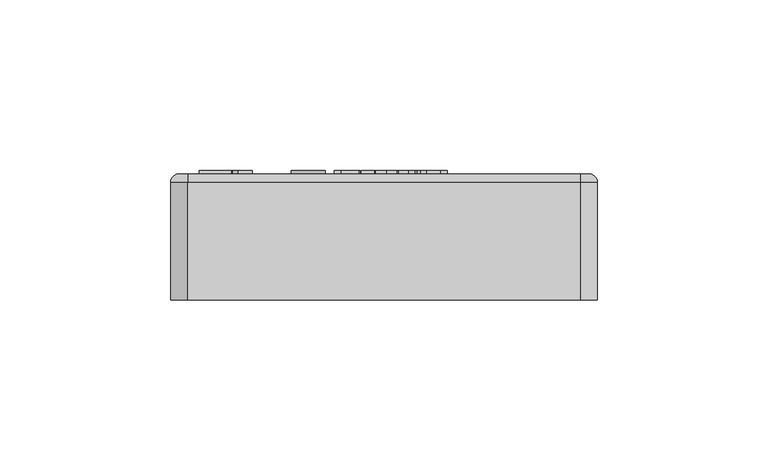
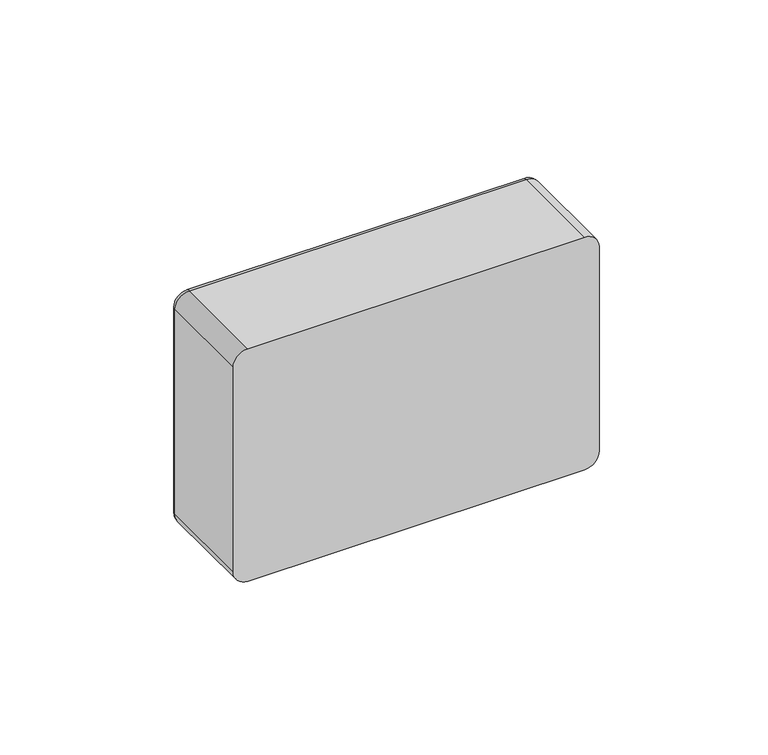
"""IFC4 building model written with IfcOpenShell, lengths in millimetres: proxy geometry, RBZ_МодульРелейный_Рубеж_РМ-1(1С;4) _прот.R3 : РМ-4 прот. R3."""

from ifc_helpers import new_model, si_unit, point, frame, frame_2d, origin, place, context, project, spatial, polyline, circle_curve, ellipse_curve, trimmed, segment, composite_curve, outline, extrude, source, transform, mapped, element, save
from ifc_brep_helpers import plane_surface, cylinder_surface, revolved_surface, advanced_brep


def electrical_equipment_0a952487(model_context):
    return source(origin(), model_context, "Body", "SolidModel", [
        extrude(outline(composite_curve([segment(trimmed(circle_curve(frame_2d((53.3588162, -22.1973865)), 5.0), [point((53.3588162, -17.1973865))], [point((53.3588162, -27.1973865))], False, "CARTESIAN"), True, "CONTINUOUS"), segment(trimmed(circle_curve(frame_2d((53.3588162, -22.1973865)), 5.0), [point((53.3588162, -27.1973865))], [point((53.3588162, -17.1973865))], False, "CARTESIAN"), True, "CONTINUOUS")], self_intersect=False)), frame((0.0, 37.0, 0.0), z_axis=(0.0, 1.0, 0.0), x_axis=(0.0, 0.0, 1.0)), (0.0, 0.0, 1.0), 1.0),
        extrude(outline(polyline([(16.8535228, -44.5809835), (16.8535228, -54.095442), (12.2150397, -52.2213731), (12.2150397, -50.4073043), (7.3266777, -53.9589072), (7.3266777, -51.3726746), (9.499446, -49.9616623), (9.499446, -38.6689562), (19.7294115, -42.8021305), (17.6170136, -44.3368775), (11.5052734, -41.8675742), (11.5052734, -48.3058879), (13.9791295, -46.699347), (13.9791295, -50.735573), (14.8288565, -51.078885), (14.8288565, -46.0654671), (12.2150397, -45.0094166), (12.2150397, -42.7069147), (16.8535228, -44.5809835)])), frame((0.0, 37.0, 0.0), z_axis=(0.0, 1.0, 0.0), x_axis=(0.0, 0.0, 1.0)), (0.0, 0.0, 1.0), 1.0),
        extrude(outline(polyline([(8.679106, 16.6169585), (8.679106, 18.5957354), (18.8817, 16.5157423), (18.8817, 12.3557561), (18.6210682, 10.6021852), (17.7582, 9.5799015), (16.3183995, 9.2028711), (14.8153387, 9.5065197), (13.6450263, 10.2529893), (12.9795297, 11.2044217), (12.6366598, 12.5759013), (12.5658085, 14.4585228), (12.5658085, 15.8224113), (8.679106, 16.6169585)]), holes=[polyline([(14.1852678, 15.4934586), (14.4028827, 12.4266074), (15.1012745, 11.4890923), (16.1564535, 11.1462224), (17.2622406, 13.2439283), (17.2622406, 14.8659181), (14.1852678, 15.4934586)])]), frame((0.0, 37.0, 0.0), z_axis=(0.0, 1.0, 0.0), x_axis=(0.0, 0.0, 1.0)), (0.0, 0.0, 1.0), 1.0),
        extrude(outline(polyline([(8.679106, 3.3728174), (8.679106, 5.3161686), (17.1053555, 5.7210335), (8.679106, 7.2595199), (8.679106, 9.2307056), (18.8817, 7.1456516), (18.8817, 4.1698951), (11.5738896, 3.8586552), (18.8817, 0.6627534), (18.8817, -2.4648275), (8.679106, -0.5493107), (8.679106, 1.4294662), (17.1002947, -0.2709662), (8.679106, 3.3728174)])), frame((0.0, 37.0, 0.0), z_axis=(0.0, 1.0, 0.0), x_axis=(0.0, 0.0, 1.0)), (0.0, 0.0, 1.0), 1.0),
        extrude(outline(polyline([(13.3755381, -2.7811282), (13.3755381, -6.6678307), (11.4321869, -6.3439388), (11.4321869, -2.4572363), (13.3755381, -2.7811282)])), frame((0.0, 37.0, 0.0), z_axis=(0.0, 1.0, 0.0), x_axis=(0.0, 0.0, 1.0)), (0.0, 0.0, 1.0), 1.0),
        extrude(outline(polyline([(10.7844032, -10.984702), (10.7844032, -6.9917225), (12.3785585, -7.3282664), (18.719754, -12.7028472), (18.719754, -14.5778775), (12.4038625, -13.2899012), (12.4038625, -14.4412356), (10.7844032, -14.1021613), (10.7844032, -12.9609485), (8.679106, -12.5307796), (8.679106, -10.5545331), (10.7844032, -10.984702)]), holes=[polyline([(12.4038625, -11.3136547), (15.6427812, -11.9740905), (12.4038625, -9.2589656), (12.4038625, -11.3136547)])]), frame((0.0, 37.0, 0.0), z_axis=(0.0, 1.0, 0.0), x_axis=(0.0, 0.0, 1.0)), (0.0, 0.0, 1.0), 1.0),
        extrude(outline(composite_curve([segment(trimmed(circle_curve(frame_2d((74.0, -52.5)), 5.0), [point((79.0, -52.5))], [point((74.0, -57.5))], False, "CARTESIAN"), True, "CONTINUOUS"), segment(polyline([(74.0, -57.5), (10.0, -57.5)]), True, "CONTINUOUS"), segment(trimmed(circle_curve(frame_2d((10.0, -52.5)), 5.0), [point((10.0, -57.5))], [point((5.0, -52.5))], False, "CARTESIAN"), True, "CONTINUOUS"), segment(polyline([(5.0, -52.5), (5.0, 22.5)]), True, "CONTINUOUS"), segment(trimmed(circle_curve(frame_2d((10.0, 22.5)), 5.0), [point((5.0, 22.5))], [point((10.0, 27.5))], False, "CARTESIAN"), True, "CONTINUOUS"), segment(polyline([(10.0, 27.5), (15.0, 27.5)]), True, "CONTINUOUS"), segment(trimmed(circle_curve(frame_2d((25.0, 27.5)), 10.0), [point((15.0, 27.5))], [point((35.0, 27.5))], False, "CARTESIAN"), True, "CONTINUOUS"), segment(polyline([(35.0, 27.5), (74.0, 27.5)]), True, "CONTINUOUS"), segment(trimmed(circle_curve(frame_2d((74.0, 22.5)), 5.0), [point((74.0, 27.5))], [point((79.0, 22.5))], False, "CARTESIAN"), True, "CONTINUOUS"), segment(polyline([(79.0, 22.5), (79.0, -52.5)]), True, "CONTINUOUS")], self_intersect=False)), frame((0.0, 34.8836616, 0.0), z_axis=(0.0, 1.0, 0.0), x_axis=(0.0, 0.0, 1.0)), (0.0, 0.0, 1.0), 2.1163384),
        advanced_brep(
        [(-57.5, 37.0, 2.5), (-60.0, 37.0, 5.0), (-60.0, 37.0, 79.0), (-57.5, 37.0, 81.5), (57.5, 37.0, 81.5), (60.0, 37.0, 79.0), (60.0, 37.0, 5.0), (57.5, 37.0, 2.5), (27.5, 37.0, 74.0), (22.5, 37.0, 79.0), (-52.5, 37.0, 79.0), (-57.5, 37.0, 74.0), (-57.5, 37.0, 10.0), (-52.5, 37.0, 5.0), (22.5, 37.0, 5.0), (27.5, 37.0, 10.0), (27.5, 37.0, 15.0), (27.5, 37.0, 35.0), (-57.5, 0.0, 84.0), (-62.5, 0.0, 79.0), (-62.5, 0.0, 5.0), (-57.5, 0.0, 0.0), (57.5, 0.0, 0.0), (62.5, 0.0, 5.0), (62.5, 0.0, 79.0), (57.5, 0.0, 84.0), (57.5, 34.5, 84.0), (-57.5, 34.5, 84.0), (62.5, 34.5000019, 79.0), (62.5, 34.5, 5.0), (57.5, 34.5000018, 0.0), (-57.5, 34.5000019, 0.0), (-62.5, 34.5000019, 5.0), (-62.5, 34.5, 79.0), (22.5, 31.4049918, 79.0), (27.5, 31.4049918, 74.0), (27.5, 31.4049918, 35.0), (27.5, 31.4049918, 15.0), (27.5, 31.4049918, 10.0), (22.5, 31.4049918, 5.0), (-52.5, 31.4049918, 5.0), (-57.5, 31.4049918, 10.0), (-57.5, 31.4049918, 74.0), (-52.5, 31.4049918, 79.0)],
        [
            (0, 1, circle_curve(frame((-57.5, 37.0, 5.0), z_axis=(0.0, 1.0, 0.0), x_axis=(0.0, 0.0, -1.0)), 2.5)),
            (1, 2),
            (2, 3, circle_curve(frame((-57.5, 37.0, 79.0), z_axis=(0.0, 1.0, 0.0), x_axis=(-1.0, 0.0, 0.0)), 2.5)),
            (3, 4),
            (4, 5, circle_curve(frame((57.5, 37.0, 79.0), z_axis=(0.0, 1.0, 0.0), x_axis=(0.0, 0.0, 1.0)), 2.5)),
            (5, 6),
            (6, 7, circle_curve(frame((57.5, 37.0, 5.0), z_axis=(0.0, 1.0, 0.0), x_axis=(1.0, 0.0, 0.0)), 2.5)),
            (7, 0),
            (8, 9, circle_curve(frame((22.5, 37.0, 74.0), z_axis=(0.0, -1.0, 0.0), x_axis=(-1.0, 0.0, 0.0)), 5.0)),
            (9, 10),
            (10, 11, circle_curve(frame((-52.5, 37.0, 74.0), z_axis=(0.0, -1.0, 0.0), x_axis=(-1.0, 0.0, 0.0)), 5.0)),
            (11, 12),
            (12, 13, circle_curve(frame((-52.5, 37.0, 10.0), z_axis=(0.0, -1.0, 0.0), x_axis=(-1.0, 0.0, 0.0)), 5.0)),
            (13, 14),
            (14, 15, circle_curve(frame((22.5, 37.0, 10.0), z_axis=(0.0, -1.0, 0.0), x_axis=(-1.0, 0.0, 0.0)), 5.0)),
            (15, 16),
            (16, 17, circle_curve(frame((27.5, 37.0, 25.0), z_axis=(0.0, -1.0, 0.0), x_axis=(-1.0, 0.0, 0.0)), 10.0)),
            (17, 8),
            (18, 19, circle_curve(frame((-57.5, 0.0, 79.0), z_axis=(0.0, -1.0, 0.0), x_axis=(-1.0, 0.0, 0.0)), 5.0)),
            (19, 20),
            (20, 21, circle_curve(frame((-57.5, 0.0, 5.0), z_axis=(0.0, -1.0, 0.0), x_axis=(-1.0, 0.0, 0.0)), 5.0)),
            (21, 22),
            (22, 23, circle_curve(frame((57.5, 0.0, 5.0), z_axis=(0.0, -1.0, 0.0), x_axis=(-1.0, 0.0, 0.0)), 5.0)),
            (23, 24),
            (24, 25, circle_curve(frame((57.5, 0.0, 79.0), z_axis=(0.0, -1.0, 0.0), x_axis=(-1.0, 0.0, 0.0)), 5.0)),
            (25, 18),
            (25, 26),
            (26, 27),
            (27, 18),
            (24, 28),
            (28, 26, circle_curve(frame((57.5, 34.5, 79.0), z_axis=(0.0, -1.0, 0.0), x_axis=(-1.0, 0.0, 0.0)), 5.0)),
            (23, 29),
            (29, 28),
            (22, 30),
            (30, 29, circle_curve(frame((57.5, 34.5, 5.0), z_axis=(0.0, -1.0, 0.0), x_axis=(-1.0, 0.0, 0.0)), 5.0)),
            (21, 31),
            (31, 30),
            (20, 32),
            (32, 31, circle_curve(frame((-57.5, 34.5, 5.0), z_axis=(0.0, -1.0, 0.0), x_axis=(-1.0, 0.0, 0.0)), 5.0)),
            (19, 33),
            (33, 32),
            (27, 33, circle_curve(frame((-57.5, 34.5, 79.0), z_axis=(0.0, -1.0, 0.0), x_axis=(-1.0, 0.0, 0.0)), 5.0)),
            (34, 35, circle_curve(frame((22.5, 31.4049918, 74.0), z_axis=(0.0, 1.0, 0.0), x_axis=(-1.0, 0.0, 0.0)), 5.0)),
            (35, 36),
            (36, 37, circle_curve(frame((27.5, 31.4049918, 25.0), z_axis=(0.0, 1.0, 0.0), x_axis=(-1.0, 0.0, 0.0)), 10.0)),
            (37, 38),
            (38, 39, circle_curve(frame((22.5, 31.4049918, 10.0), z_axis=(0.0, 1.0, 0.0), x_axis=(-1.0, 0.0, 0.0)), 5.0)),
            (39, 40),
            (40, 41, circle_curve(frame((-52.5, 31.4049918, 10.0), z_axis=(0.0, 1.0, 0.0), x_axis=(-1.0, 0.0, 0.0)), 5.0)),
            (41, 42),
            (42, 43, circle_curve(frame((-52.5, 31.4049918, 74.0), z_axis=(0.0, 1.0, 0.0), x_axis=(-1.0, 0.0, 0.0)), 5.0)),
            (43, 34),
            (34, 9),
            (8, 35),
            (17, 36),
            (16, 37),
            (15, 38),
            (14, 39),
            (13, 40),
            (12, 41),
            (11, 42),
            (10, 43),
            (32, 1, circle_curve(frame((-60.0, 34.5, 5.0), z_axis=(0.0, 0.0, -1.0), x_axis=(1.0, 0.0, 0.0)), 2.5)),
            (0, 31, circle_curve(frame((-57.5, 34.5, 2.5), z_axis=(-1.0, 0.0, 0.0), x_axis=(0.0, 0.0, 1.0)), 2.5)),
            (33, 2, circle_curve(frame((-60.0, 34.5, 79.0), z_axis=(0.0, 0.0, -1.0), x_axis=(1.0, 0.0, 0.0)), 2.5)),
            (27, 3, circle_curve(frame((-57.5, 34.5, 81.5), z_axis=(-1.0, 0.0, 0.0), x_axis=(0.0, 0.0, -1.0)), 2.5)),
            (26, 4, circle_curve(frame((57.5, 34.5, 81.5), z_axis=(-1.0, 0.0, 0.0), x_axis=(0.0, 0.0, -1.0)), 2.5)),
            (28, 5, circle_curve(frame((60.0, 34.5, 79.0), z_axis=(0.0, 0.0, 1.0), x_axis=(-1.0, 0.0, 0.0)), 2.5)),
            (29, 6, circle_curve(frame((60.0, 34.5, 5.0), z_axis=(0.0, 0.0, 1.0), x_axis=(-1.0, 0.0, 0.0)), 2.5)),
            (30, 7, circle_curve(frame((57.5, 34.5, 2.5), z_axis=(1.0, 0.0, 0.0), x_axis=(0.0, 0.0, 1.0)), 2.5)),
        ],
        [
            plane_surface(frame((62.5, 37.0, 84.0), z_axis=(0.0, 1.0, 0.0), x_axis=(1.0, 0.0, 0.0))),
            plane_surface(frame((62.5, 0.0, 84.0), z_axis=(0.0, -1.0, 0.0), x_axis=(-1.0, 0.0, 0.0))),
            plane_surface(frame((-57.5, 37.0, 84.0), z_axis=(0.0, 0.0, 1.0), x_axis=(0.0, -1.0, 0.0))),
            cylinder_surface(frame((57.5, 0.0, 79.0), z_axis=(0.0, 1.0, 0.0), x_axis=(-1.0, 0.0, 0.0)), 5.0),
            plane_surface(frame((62.5, 37.0, 79.0), z_axis=(1.0, 0.0, 0.0), x_axis=(0.0, -1.0, 0.0))),
            cylinder_surface(frame((57.5, 0.0, 5.0), z_axis=(0.0, 1.0, 0.0), x_axis=(-1.0, 0.0, 0.0)), 5.0),
            plane_surface(frame((57.5, 37.0, 0.0), z_axis=(0.0, 0.0, -1.0), x_axis=(0.0, -1.0, 0.0))),
            cylinder_surface(frame((-57.5, 0.0, 5.0), z_axis=(0.0, 1.0, 0.0), x_axis=(-1.0, 0.0, 0.0)), 5.0),
            plane_surface(frame((-62.5, 37.0, 5.0), z_axis=(-1.0, 0.0, 0.0), x_axis=(0.0, -1.0, 0.0))),
            cylinder_surface(frame((-57.5, 0.0, 79.0), z_axis=(0.0, 1.0, 0.0), x_axis=(-1.0, 0.0, 0.0)), 5.0),
            plane_surface(frame((17.5, 31.4049918, 74.0), z_axis=(0.0, 1.0, 0.0), x_axis=(0.0, 0.0, -1.0))),
            revolved_surface(polyline([(17.5, 37.0, 74.0), (17.5, 31.4049918, 74.0)]), (22.5, 31.4049918, 74.0), (0.0, 1.0, 0.0)),
            plane_surface(frame((27.5, 37.0, 74.0), z_axis=(-1.0, 0.0, 0.0), x_axis=(0.0, -1.0, 0.0))),
            revolved_surface(polyline([(17.5, 37.0, 25.0), (17.5, 31.4049918, 25.0)]), (27.5, 31.4049918, 25.0), (0.0, 1.0, 0.0)),
            plane_surface(frame((27.5, 37.0, 15.0), z_axis=(-1.0, 0.0, 0.0), x_axis=(0.0, -1.0, 0.0))),
            revolved_surface(polyline([(17.5, 37.0, 10.0), (17.5, 31.4049918, 10.0)]), (22.5, 31.4049918, 10.0), (0.0, 1.0, 0.0)),
            plane_surface(frame((22.5, 37.0, 5.0), z_axis=(0.0, 0.0, 1.0), x_axis=(0.0, -1.0, 0.0))),
            revolved_surface(polyline([(-57.5, 37.0, 10.0), (-57.5, 31.4049918, 10.0)]), (-52.5, 31.4049918, 10.0), (0.0, 1.0, 0.0)),
            plane_surface(frame((-57.5, 37.0, 10.0), z_axis=(1.0, 0.0, 0.0), x_axis=(0.0, -1.0, 0.0))),
            revolved_surface(polyline([(-57.5, 37.0, 74.0), (-57.5, 31.4049918, 74.0)]), (-52.5, 31.4049918, 74.0), (0.0, 1.0, 0.0)),
            plane_surface(frame((-52.5, 37.0, 79.0), z_axis=(0.0, 0.0, -1.0), x_axis=(0.0, -1.0, 0.0))),
            revolved_surface(trimmed(ellipse_curve(frame((-57.5, 34.5, 2.5), z_axis=(1.0, 0.0, 0.0), x_axis=(0.0, 0.0, 1.0)), 2.5, 2.5), [point((-57.5, 34.5, 0.0))], [point((-57.5, 37.0, 2.5))], True, "CARTESIAN"), (-57.5, 37.0, 5.0), (0.0, 1.0, 0.0)),
            cylinder_surface(frame((-60.0, 34.5, 5.0), z_axis=(0.0, 0.0, 1.0), x_axis=(1.0, 0.0, 0.0)), 2.5),
            revolved_surface(trimmed(ellipse_curve(frame((-60.0, 34.5, 79.0), z_axis=(0.0, 0.0, -1.0), x_axis=(1.0, 0.0, 0.0)), 2.5, 2.5), [point((-62.5, 34.5, 79.0))], [point((-60.0, 37.0, 79.0))], True, "CARTESIAN"), (-57.5, 37.0, 79.0), (0.0, 1.0, 0.0)),
            cylinder_surface(frame((-57.5, 34.5, 81.5), z_axis=(1.0, 0.0, 0.0), x_axis=(0.0, 0.0, -1.0)), 2.5),
            revolved_surface(trimmed(ellipse_curve(frame((57.5, 34.5, 81.5), z_axis=(-1.0, 0.0, 0.0), x_axis=(0.0, 0.0, -1.0)), 2.5, 2.5), [point((57.5, 34.5, 84.0))], [point((57.5, 37.0, 81.5))], True, "CARTESIAN"), (57.5, 37.0, 79.0), (0.0, 1.0, 0.0)),
            cylinder_surface(frame((60.0, 34.5, 79.0), z_axis=(0.0, 0.0, -1.0), x_axis=(-1.0, 0.0, 0.0)), 2.5),
            revolved_surface(trimmed(ellipse_curve(frame((60.0, 34.5, 5.0), z_axis=(0.0, 0.0, 1.0), x_axis=(-1.0, 0.0, 0.0)), 2.5, 2.5), [point((62.5, 34.5, 5.0))], [point((60.0, 37.0, 5.0))], True, "CARTESIAN"), (57.5, 37.0, 5.0), (0.0, 1.0, 0.0)),
            cylinder_surface(frame((57.5, 34.5, 2.5), z_axis=(-1.0, 0.0, 0.0), x_axis=(0.0, 0.0, 1.0)), 2.5),
        ],
        [
            (0, [[1, 2, 3, 4, 5, 6, 7, 8], [9, 10, 11, 12, 13, 14, 15, 16, 17, 18]]),
            (1, [[19, 20, 21, 22, 23, 24, 25, 26]]),
            (2, [[-26, 27, 28, 29]]),
            (3, [[-25, 30, 31, -27]]),
            (4, [[-24, 32, 33, -30]]),
            (5, [[-23, 34, 35, -32]]),
            (6, [[-22, 36, 37, -34]]),
            (7, [[-21, 38, 39, -36]]),
            (8, [[-20, 40, 41, -38]]),
            (9, [[-19, -29, 42, -40]]),
            (10, [[43, 44, 45, 46, 47, 48, 49, 50, 51, 52]]),
            (11, [[-43, 53, -9, 54]]),
            (12, [[-44, -54, -18, 55]]),
            (13, [[-45, -55, -17, 56]]),
            (14, [[-46, -56, -16, 57]]),
            (15, [[-47, -57, -15, 58]]),
            (16, [[-48, -58, -14, 59]]),
            (17, [[-49, -59, -13, 60]]),
            (18, [[-50, -60, -12, 61]]),
            (19, [[-51, -61, -11, 62]]),
            (20, [[-52, -62, -10, -53]]),
            (21, [[63, -1, 64, -39]]),
            (22, [[-63, -41, 65, -2]]),
            (23, [[-65, -42, 66, -3]]),
            (24, [[-66, -28, 67, -4]]),
            (25, [[-67, -31, 68, -5]]),
            (26, [[-68, -33, 69, -6]]),
            (27, [[-69, -35, 70, -7]]),
            (28, [[-64, -8, -70, -37]]),
        ],
    ),
    ])


if __name__ == "__main__":
    model = new_model("IFC4")
    model_context = context("Model", 3, world=origin())
    ifc_project = project(units=[si_unit("LENGTHUNIT", "METRE", prefix="MILLI")], contexts=[model_context])
    site = spatial("IfcSite", under=ifc_project)
    building = spatial("IfcBuilding", under=site)
    placement = place(None, origin())
    electrical_equipment_shape = electrical_equipment_0a952487(model_context)
    element("IfcBuildingElementProxy", 1, Name="RBZ_МодульРелейный_Рубеж_РМ-1(1С;4) _прот.R3 : РМ-4 прот. R3", ObjectType="RBZ_МодульРелейный_Рубеж_РМ-1(1С;4) _прот.R3 : РМ-4 прот. R3", at=placement, inside=building, context=model_context, shape_type="MappedRepresentation", body=[
        mapped(electrical_equipment_shape, transform((0.0, 0.0, 0.0), x_axis=(1.0, 0.0, 0.0), y_axis=(0.0, 1.0, 0.0), z_axis=(0.0, 0.0, 1.0))),
    ])
    save(model, "model.ifc")
